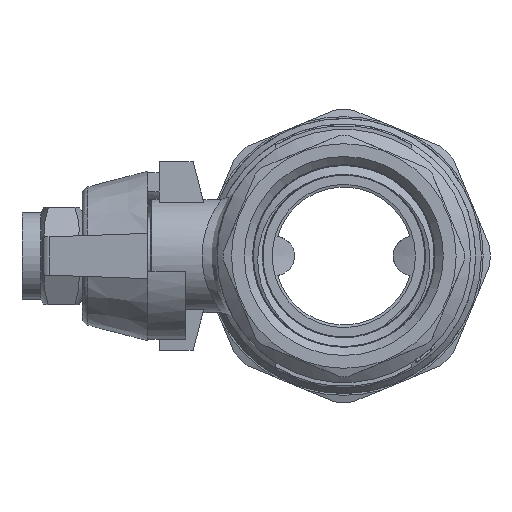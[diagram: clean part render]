
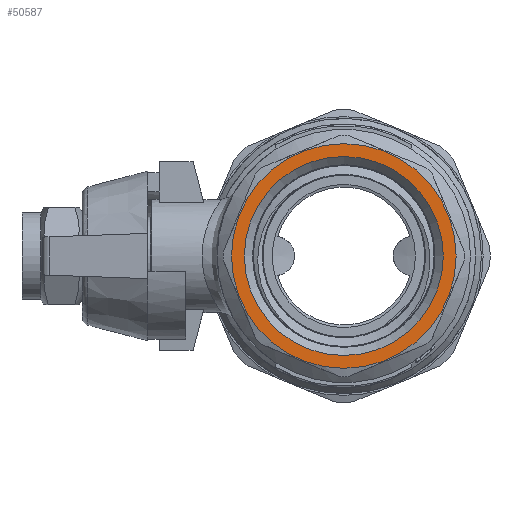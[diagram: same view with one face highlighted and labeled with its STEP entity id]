
A CAD part, left-side view. The second image highlights one B-rep face of the part: STEP entity #50587.
In plain terms, the highlighted planar face has unit normal (-1, 0, 0).
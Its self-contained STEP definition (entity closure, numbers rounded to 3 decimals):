
#484=PLANE('',#53750);
#1740=FACE_BOUND('',#12575,.T.);
#8136=CIRCLE('',#53713,14.901);
#8137=CIRCLE('',#53714,14.901);
#8153=CIRCLE('',#53751,13.2);
#8154=CIRCLE('',#53752,13.2);
#9671=FACE_OUTER_BOUND('',#12574,.T.);
#12574=EDGE_LOOP('',(#36501,#36502));
#12575=EDGE_LOOP('',(#36503,#36504));
#20322=VERTEX_POINT('',#77378);
#20323=VERTEX_POINT('',#77380);
#20355=VERTEX_POINT('',#77524);
#20356=VERTEX_POINT('',#77525);
#26395=EDGE_CURVE('',#20323,#20322,#8136,.T.);
#26396=EDGE_CURVE('',#20322,#20323,#8137,.T.);
#26448=EDGE_CURVE('',#20355,#20356,#8153,.T.);
#26449=EDGE_CURVE('',#20356,#20355,#8154,.T.);
#36501=ORIENTED_EDGE('',*,*,#26395,.T.);
#36502=ORIENTED_EDGE('',*,*,#26396,.T.);
#36503=ORIENTED_EDGE('',*,*,#26448,.F.);
#36504=ORIENTED_EDGE('',*,*,#26449,.F.);
#50587=ADVANCED_FACE('',(#9671,#1740),#484,.T.);
#53713=AXIS2_PLACEMENT_3D('',#77381,#58278,#58279);
#53714=AXIS2_PLACEMENT_3D('',#77382,#58280,#58281);
#53750=AXIS2_PLACEMENT_3D('',#77523,#58369,#58370);
#53751=AXIS2_PLACEMENT_3D('',#77526,#58371,#58372);
#53752=AXIS2_PLACEMENT_3D('',#77527,#58373,#58374);
#58278=DIRECTION('center_axis',(-1.,0.,0.));
#58279=DIRECTION('ref_axis',(0.,1.,0.));
#58280=DIRECTION('center_axis',(-1.,0.,0.));
#58281=DIRECTION('ref_axis',(0.,1.,0.));
#58369=DIRECTION('center_axis',(-1.,0.,0.));
#58370=DIRECTION('ref_axis',(0.,0.,1.));
#58371=DIRECTION('center_axis',(-1.,0.,0.));
#58372=DIRECTION('ref_axis',(0.,0.,1.));
#58373=DIRECTION('center_axis',(-1.,0.,0.));
#58374=DIRECTION('ref_axis',(0.,0.,1.));
#77378=CARTESIAN_POINT('',(-39.,-14.901,0.));
#77380=CARTESIAN_POINT('',(-39.,14.901,0.));
#77381=CARTESIAN_POINT('Origin',(-39.,0.,0.));
#77382=CARTESIAN_POINT('Origin',(-39.,0.,0.));
#77523=CARTESIAN_POINT('Origin',(-39.,-13.2,0.));
#77524=CARTESIAN_POINT('',(-39.,-13.2,0.));
#77525=CARTESIAN_POINT('',(-39.,13.2,0.));
#77526=CARTESIAN_POINT('Origin',(-39.,0.,0.));
#77527=CARTESIAN_POINT('Origin',(-39.,0.,0.));
